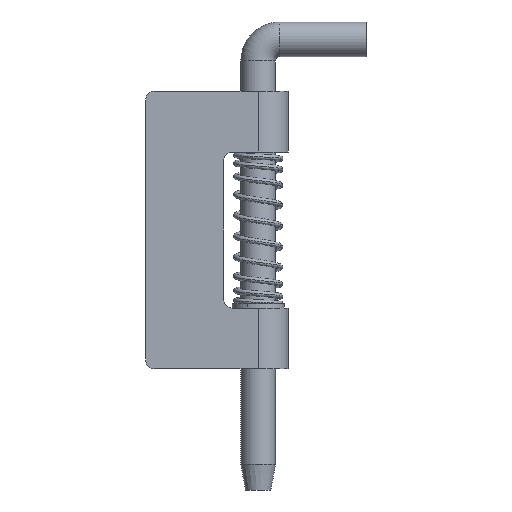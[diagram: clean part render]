
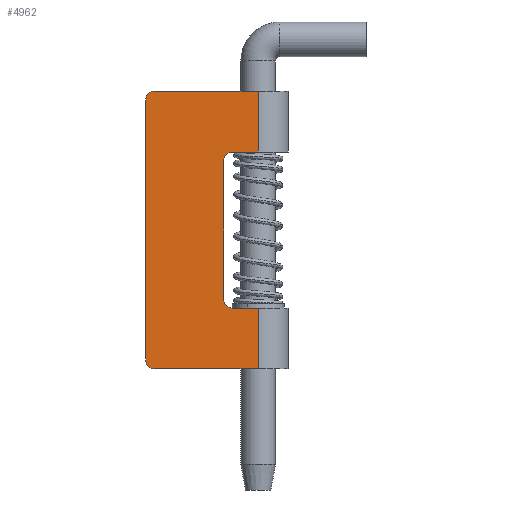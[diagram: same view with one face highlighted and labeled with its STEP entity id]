
A CAD part, front view. The second image highlights one B-rep face of the part: STEP entity #4962.
In plain terms, the highlighted planar face has unit normal (0, -1, 0).
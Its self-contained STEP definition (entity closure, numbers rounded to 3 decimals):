
#18 = CARTESIAN_POINT ( 'NONE',  ( 0., -1.5, -16. ) ) ;
#24 = EDGE_CURVE ( 'NONE', #3013, #2898, #3795, .T. ) ;
#40 = CARTESIAN_POINT ( 'NONE',  ( 13., -1.5, 16. ) ) ;
#71 = DIRECTION ( 'NONE',  ( 0., 0., -1. ) ) ;
#77 = EDGE_CURVE ( 'NONE', #238, #3904, #4024, .T. ) ;
#83 = DIRECTION ( 'NONE',  ( 0., 0., -1. ) ) ;
#146 = AXIS2_PLACEMENT_3D ( 'NONE', #2244, #2253, #2259 ) ;
#196 = CARTESIAN_POINT ( 'NONE',  ( 10., -1.5, 9. ) ) ;
#199 = EDGE_LOOP ( 'NONE', ( #619, #484, #2404, #228, #2279, #2151, #4156, #937, #1884, #2856, #4790, #4665 ) ) ;
#228 = ORIENTED_EDGE ( 'NONE', *, *, #77, .F. ) ;
#238 = VERTEX_POINT ( 'NONE', #367 ) ;
#331 = LINE ( 'NONE', #40, #3492 ) ;
#367 = CARTESIAN_POINT ( 'NONE',  ( 13., -1.5, -9. ) ) ;
#368 = VERTEX_POINT ( 'NONE', #196 ) ;
#372 = EDGE_CURVE ( 'NONE', #4881, #814, #3547, .T. ) ;
#382 = CARTESIAN_POINT ( 'NONE',  ( 0., -1.5, -15. ) ) ;
#448 = EDGE_CURVE ( 'NONE', #2002, #3904, #2467, .T. ) ;
#473 = CARTESIAN_POINT ( 'NONE',  ( 1., -1.5, 16. ) ) ;
#484 = ORIENTED_EDGE ( 'NONE', *, *, #1528, .T. ) ;
#526 = EDGE_CURVE ( 'NONE', #3687, #1635, #331, .T. ) ;
#558 = DIRECTION ( 'NONE',  ( 1., 0., 0. ) ) ;
#619 = ORIENTED_EDGE ( 'NONE', *, *, #372, .T. ) ;
#721 = CIRCLE ( 'NONE', #3542, 1. ) ;
#814 = VERTEX_POINT ( 'NONE', #382 ) ;
#818 = CARTESIAN_POINT ( 'NONE',  ( 10., -1.5, 8. ) ) ;
#937 = ORIENTED_EDGE ( 'NONE', *, *, #4979, .T. ) ;
#1054 = VERTEX_POINT ( 'NONE', #473 ) ;
#1096 = LINE ( 'NONE', #1395, #3043 ) ;
#1195 = DIRECTION ( 'NONE',  ( 0., 0., 1. ) ) ;
#1206 = DIRECTION ( 'NONE',  ( 0., 0., 1. ) ) ;
#1267 = CARTESIAN_POINT ( 'NONE',  ( 9., -1.5, 16. ) ) ;
#1367 = DIRECTION ( 'NONE',  ( 0., 0., -1. ) ) ;
#1395 = CARTESIAN_POINT ( 'NONE',  ( 0., -1.5, 9. ) ) ;
#1400 = EDGE_CURVE ( 'NONE', #368, #1635, #1096, .T. ) ;
#1528 = EDGE_CURVE ( 'NONE', #814, #2002, #721, .T. ) ;
#1553 = DIRECTION ( 'NONE',  ( 1., 0., 0. ) ) ;
#1613 = PLANE ( 'NONE',  #2568 ) ;
#1635 = VERTEX_POINT ( 'NONE', #1781 ) ;
#1731 = AXIS2_PLACEMENT_3D ( 'NONE', #818, #3679, #1206 ) ;
#1781 = CARTESIAN_POINT ( 'NONE',  ( 13., -1.5, 9. ) ) ;
#1811 = CARTESIAN_POINT ( 'NONE',  ( 1., -1.5, -15. ) ) ;
#1818 = EDGE_CURVE ( 'NONE', #1054, #3687, #4717, .T. ) ;
#1820 = DIRECTION ( 'NONE',  ( 0., -1., 0. ) ) ;
#1837 = DIRECTION ( 'NONE',  ( 0., 0., 1. ) ) ;
#1848 = EDGE_CURVE ( 'NONE', #3390, #238, #2381, .T. ) ;
#1853 = CARTESIAN_POINT ( 'NONE',  ( 0., -1.5, 16. ) ) ;
#1884 = ORIENTED_EDGE ( 'NONE', *, *, #1400, .T. ) ;
#1886 = CARTESIAN_POINT ( 'NONE',  ( 13., -1.5, 16. ) ) ;
#1935 = VECTOR ( 'NONE', #2076, 1000. ) ;
#1990 = EDGE_CURVE ( 'NONE', #3390, #3013, #2207, .T. ) ;
#1994 = CARTESIAN_POINT ( 'NONE',  ( 0., -1.5, 15. ) ) ;
#1997 = CARTESIAN_POINT ( 'NONE',  ( 0., -1.5, 16. ) ) ;
#2002 = VERTEX_POINT ( 'NONE', #2187 ) ;
#2034 = DIRECTION ( 'NONE',  ( 0., 1., 0. ) ) ;
#2072 = CARTESIAN_POINT ( 'NONE',  ( 1., -1.5, 15. ) ) ;
#2076 = DIRECTION ( 'NONE',  ( 1., 0., 0. ) ) ;
#2097 = CARTESIAN_POINT ( 'NONE',  ( 0., -1.5, -9. ) ) ;
#2110 = DIRECTION ( 'NONE',  ( 1., 0., 0. ) ) ;
#2151 = ORIENTED_EDGE ( 'NONE', *, *, #1990, .T. ) ;
#2187 = CARTESIAN_POINT ( 'NONE',  ( 1., -1.5, -16. ) ) ;
#2207 = CIRCLE ( 'NONE', #146, 1. ) ;
#2244 = CARTESIAN_POINT ( 'NONE',  ( 10., -1.5, -8. ) ) ;
#2253 = DIRECTION ( 'NONE',  ( 0., 1., 0. ) ) ;
#2259 = DIRECTION ( 'NONE',  ( 0., 0., 1. ) ) ;
#2279 = ORIENTED_EDGE ( 'NONE', *, *, #1848, .F. ) ;
#2324 = VECTOR ( 'NONE', #2110, 1000. ) ;
#2381 = LINE ( 'NONE', #2097, #1935 ) ;
#2404 = ORIENTED_EDGE ( 'NONE', *, *, #448, .T. ) ;
#2467 = LINE ( 'NONE', #18, #4084 ) ;
#2488 = DIRECTION ( 'NONE',  ( 0., 0., 1. ) ) ;
#2489 = CARTESIAN_POINT ( 'NONE',  ( 13., -1.5, -16. ) ) ;
#2568 = AXIS2_PLACEMENT_3D ( 'NONE', #3258, #2034, #4781 ) ;
#2603 = VECTOR ( 'NONE', #71, 1000. ) ;
#2674 = FACE_OUTER_BOUND ( 'NONE', #199, .T. ) ;
#2856 = ORIENTED_EDGE ( 'NONE', *, *, #526, .F. ) ;
#2898 = VERTEX_POINT ( 'NONE', #3501 ) ;
#3013 = VERTEX_POINT ( 'NONE', #3523 ) ;
#3043 = VECTOR ( 'NONE', #1553, 1000. ) ;
#3258 = CARTESIAN_POINT ( 'NONE',  ( 0., -1.5, 16. ) ) ;
#3390 = VERTEX_POINT ( 'NONE', #4926 ) ;
#3427 = VECTOR ( 'NONE', #1367, 1000. ) ;
#3492 = VECTOR ( 'NONE', #83, 1000. ) ;
#3501 = CARTESIAN_POINT ( 'NONE',  ( 9., -1.5, 8. ) ) ;
#3504 = CIRCLE ( 'NONE', #1731, 1. ) ;
#3523 = CARTESIAN_POINT ( 'NONE',  ( 9., -1.5, -8. ) ) ;
#3542 = AXIS2_PLACEMENT_3D ( 'NONE', #1811, #1820, #1837 ) ;
#3547 = LINE ( 'NONE', #1997, #2603 ) ;
#3652 = AXIS2_PLACEMENT_3D ( 'NONE', #2072, #4822, #2488 ) ;
#3679 = DIRECTION ( 'NONE',  ( 0., 1., 0. ) ) ;
#3687 = VERTEX_POINT ( 'NONE', #3827 ) ;
#3795 = LINE ( 'NONE', #1267, #4201 ) ;
#3827 = CARTESIAN_POINT ( 'NONE',  ( 13., -1.5, 16. ) ) ;
#3904 = VERTEX_POINT ( 'NONE', #2489 ) ;
#4024 = LINE ( 'NONE', #1886, #3427 ) ;
#4084 = VECTOR ( 'NONE', #558, 1000. ) ;
#4156 = ORIENTED_EDGE ( 'NONE', *, *, #24, .T. ) ;
#4201 = VECTOR ( 'NONE', #1195, 1000. ) ;
#4611 = CIRCLE ( 'NONE', #3652, 1. ) ;
#4665 = ORIENTED_EDGE ( 'NONE', *, *, #5068, .T. ) ;
#4717 = LINE ( 'NONE', #1853, #2324 ) ;
#4781 = DIRECTION ( 'NONE',  ( 0., 0., 1. ) ) ;
#4790 = ORIENTED_EDGE ( 'NONE', *, *, #1818, .F. ) ;
#4822 = DIRECTION ( 'NONE',  ( 0., -1., 0. ) ) ;
#4881 = VERTEX_POINT ( 'NONE', #1994 ) ;
#4926 = CARTESIAN_POINT ( 'NONE',  ( 10., -1.5, -9. ) ) ;
#4962 = ADVANCED_FACE ( 'NONE', ( #2674 ), #1613, .F. ) ;
#4979 = EDGE_CURVE ( 'NONE', #2898, #368, #3504, .T. ) ;
#5068 = EDGE_CURVE ( 'NONE', #1054, #4881, #4611, .T. ) ;
